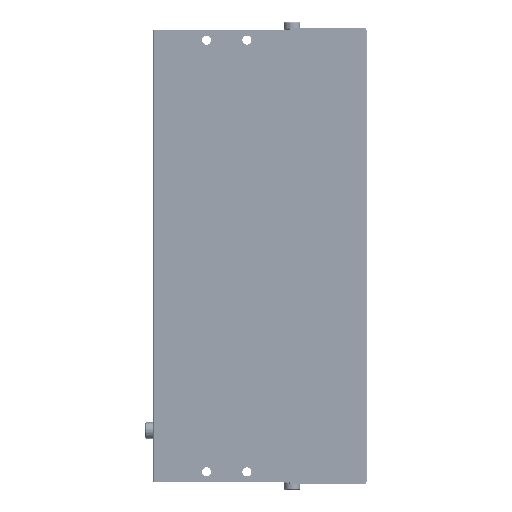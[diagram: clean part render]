
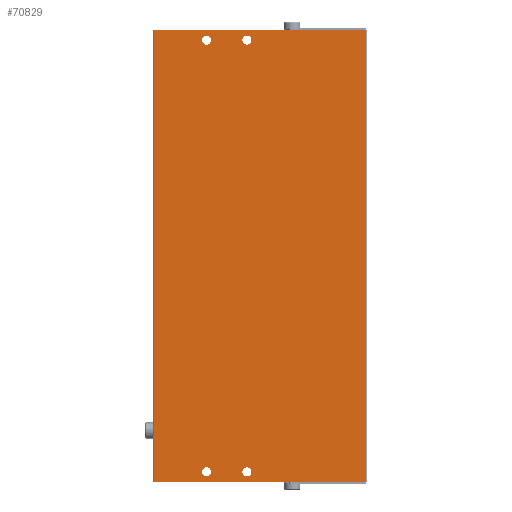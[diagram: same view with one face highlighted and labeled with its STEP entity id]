
A CAD part, front view. The second image highlights one B-rep face of the part: STEP entity #70829.
In plain terms, the highlighted planar face has unit normal (0, -1, 0).
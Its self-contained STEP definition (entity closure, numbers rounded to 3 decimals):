
#48389=DIRECTION('',(1.,0.,0.));
#48390=VECTOR('',#48389,105.);
#48391=CARTESIAN_POINT('',(-52.5,-16.9,224.));
#48392=LINE('',#48391,#48390);
#50957=DIRECTION('',(-1.,0.,0.));
#50958=VECTOR('',#50957,105.);
#50959=CARTESIAN_POINT('',(52.5,-16.9,0.));
#50960=LINE('',#50959,#50958);
#51153=DIRECTION('',(0.,0.,-1.));
#51154=VECTOR('',#51153,224.);
#51155=CARTESIAN_POINT('',(52.5,-16.9,224.));
#51156=LINE('',#51155,#51154);
#51157=CARTESIAN_POINT('',(-26.5,-16.9,219.));
#51158=DIRECTION('',(0.,1.,0.));
#51159=DIRECTION('',(0.,0.,1.));
#51160=AXIS2_PLACEMENT_3D('',#51157,#51158,#51159);
#51162=CARTESIAN_POINT('',(-26.5,-16.9,219.));
#51163=DIRECTION('',(0.,1.,0.));
#51164=DIRECTION('',(0.,0.,-1.));
#51165=AXIS2_PLACEMENT_3D('',#51162,#51163,#51164);
#51167=CARTESIAN_POINT('',(-6.5,-16.9,219.));
#51168=DIRECTION('',(0.,1.,0.));
#51169=DIRECTION('',(0.,0.,1.));
#51170=AXIS2_PLACEMENT_3D('',#51167,#51168,#51169);
#51172=CARTESIAN_POINT('',(-6.5,-16.9,219.));
#51173=DIRECTION('',(0.,1.,0.));
#51174=DIRECTION('',(0.,0.,-1.));
#51175=AXIS2_PLACEMENT_3D('',#51172,#51173,#51174);
#51177=CARTESIAN_POINT('',(-26.5,-16.9,5.));
#51178=DIRECTION('',(0.,1.,0.));
#51179=DIRECTION('',(0.,0.,-1.));
#51180=AXIS2_PLACEMENT_3D('',#51177,#51178,#51179);
#51182=CARTESIAN_POINT('',(-26.5,-16.9,5.));
#51183=DIRECTION('',(0.,1.,0.));
#51184=DIRECTION('',(0.,0.,1.));
#51185=AXIS2_PLACEMENT_3D('',#51182,#51183,#51184);
#51187=CARTESIAN_POINT('',(-6.5,-16.9,5.));
#51188=DIRECTION('',(0.,1.,0.));
#51189=DIRECTION('',(0.,0.,-1.));
#51190=AXIS2_PLACEMENT_3D('',#51187,#51188,#51189);
#51192=CARTESIAN_POINT('',(-6.5,-16.9,5.));
#51193=DIRECTION('',(0.,1.,0.));
#51194=DIRECTION('',(0.,0.,1.));
#51195=AXIS2_PLACEMENT_3D('',#51192,#51193,#51194);
#51201=DIRECTION('',(0.,0.,1.));
#51202=VECTOR('',#51201,224.);
#51203=CARTESIAN_POINT('',(-52.5,-16.9,0.));
#51204=LINE('',#51203,#51202);
#65290=CARTESIAN_POINT('',(-26.5,-16.9,216.75));
#65292=VERTEX_POINT('',#65290);
#65495=CARTESIAN_POINT('',(52.5,-16.9,0.));
#65496=CARTESIAN_POINT('',(-52.5,-16.9,0.));
#65497=VERTEX_POINT('',#65495);
#65498=VERTEX_POINT('',#65496);
#66051=CARTESIAN_POINT('',(52.5,-16.9,224.));
#66053=VERTEX_POINT('',#66051);
#66607=CARTESIAN_POINT('',(-52.5,-16.9,224.));
#66608=VERTEX_POINT('',#66607);
#66736=CARTESIAN_POINT('',(-6.5,-16.9,2.75));
#66738=VERTEX_POINT('',#66736);
#67207=CARTESIAN_POINT('',(-6.5,-16.9,7.25));
#67209=VERTEX_POINT('',#67207);
#67373=CARTESIAN_POINT('',(-26.5,-16.9,7.25));
#67374=CARTESIAN_POINT('',(-26.5,-16.9,2.75));
#67375=VERTEX_POINT('',#67373);
#67376=VERTEX_POINT('',#67374);
#67847=CARTESIAN_POINT('',(-26.5,-16.9,221.25));
#67848=VERTEX_POINT('',#67847);
#68302=CARTESIAN_POINT('',(-6.5,-16.9,216.75));
#68303=VERTEX_POINT('',#68302);
#68332=CARTESIAN_POINT('',(-6.5,-16.9,221.25));
#68333=VERTEX_POINT('',#68332);
#70793=CARTESIAN_POINT('',(-53.,-16.9,0.));
#70794=DIRECTION('',(0.,-1.,0.));
#70795=DIRECTION('',(0.,0.,-1.));
#70796=AXIS2_PLACEMENT_3D('',#70793,#70794,#70795);
#70797=PLANE('',#70796);
#70799=ORIENTED_EDGE('',*,*,#70798,.T.);
#70800=ORIENTED_EDGE('',*,*,#69108,.T.);
#70801=ORIENTED_EDGE('',*,*,#70788,.T.);
#70802=ORIENTED_EDGE('',*,*,#70659,.T.);
#70803=EDGE_LOOP('',(#70799,#70800,#70801,#70802));
#70804=FACE_OUTER_BOUND('',#70803,.F.);
#70806=ORIENTED_EDGE('',*,*,#70805,.F.);
#70808=ORIENTED_EDGE('',*,*,#70807,.F.);
#70809=EDGE_LOOP('',(#70806,#70808));
#70810=FACE_BOUND('',#70809,.F.);
#70812=ORIENTED_EDGE('',*,*,#70811,.F.);
#70814=ORIENTED_EDGE('',*,*,#70813,.F.);
#70815=EDGE_LOOP('',(#70812,#70814));
#70816=FACE_BOUND('',#70815,.F.);
#70818=ORIENTED_EDGE('',*,*,#70817,.F.);
#70820=ORIENTED_EDGE('',*,*,#70819,.F.);
#70821=EDGE_LOOP('',(#70818,#70820));
#70822=FACE_BOUND('',#70821,.F.);
#70824=ORIENTED_EDGE('',*,*,#70823,.F.);
#70826=ORIENTED_EDGE('',*,*,#70825,.F.);
#70827=EDGE_LOOP('',(#70824,#70826));
#70828=FACE_BOUND('',#70827,.F.);
#70829=ADVANCED_FACE('',(#70804,#70810,#70816,#70822,#70828),#70797,.T.);
#51161=CIRCLE('',#51160,2.25);
#51166=CIRCLE('',#51165,2.25);
#51171=CIRCLE('',#51170,2.25);
#51176=CIRCLE('',#51175,2.25);
#51181=CIRCLE('',#51180,2.25);
#51186=CIRCLE('',#51185,2.25);
#51191=CIRCLE('',#51190,2.25);
#51196=CIRCLE('',#51195,2.25);
#69108=EDGE_CURVE('',#66608,#66053,#48392,.T.);
#70659=EDGE_CURVE('',#65497,#65498,#50960,.T.);
#70788=EDGE_CURVE('',#66053,#65497,#51156,.T.);
#70798=EDGE_CURVE('',#65498,#66608,#51204,.T.);
#70805=EDGE_CURVE('',#67848,#65292,#51161,.T.);
#70807=EDGE_CURVE('',#65292,#67848,#51166,.T.);
#70811=EDGE_CURVE('',#68333,#68303,#51171,.T.);
#70813=EDGE_CURVE('',#68303,#68333,#51176,.T.);
#70817=EDGE_CURVE('',#67376,#67375,#51181,.T.);
#70819=EDGE_CURVE('',#67375,#67376,#51186,.T.);
#70823=EDGE_CURVE('',#66738,#67209,#51191,.T.);
#70825=EDGE_CURVE('',#67209,#66738,#51196,.T.);
